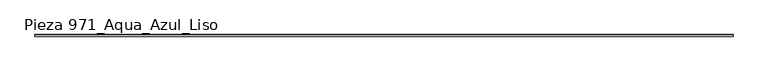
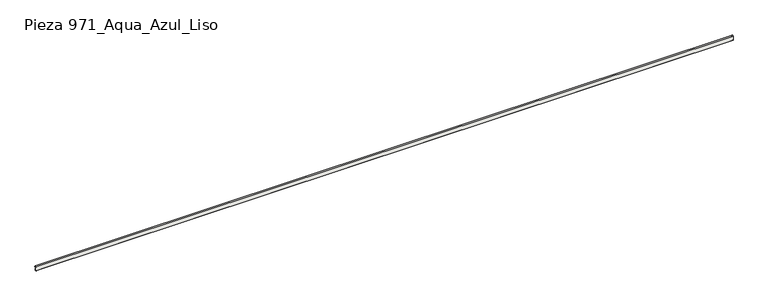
"""IFC4 building model written with IfcOpenShell, lengths in millimetres: slab geometry, ROSA GRES_971 : Pieza 971_Aqua_Azul_Liso."""

from ifc_helpers import new_model, si_unit, point, frame, frame_2d, origin, place, context, project, spatial, polyline, circle_curve, trimmed, segment, composite_curve, outline, extrude, source, transform, mapped, element, save


def pieza_971_aqua_azul_liso_7fdd6073(model_context):
    return source(origin(), model_context, "Body", "SweptSolid", [
        extrude(outline(composite_curve([segment(polyline([(31.1851409, 153.6242825), (39.9975962, 139.9882747), (39.9975962, 128.1510212), (28.5599154, 128.1510212), (22.7114874, 137.4414839)]), True, "CONTINUOUS"), segment(trimmed(circle_curve(frame_2d((18.761148, 135.3324983)), 4.4780578), [point((22.7114874, 137.4414839))], [point((14.3481673, 136.0931579))], True, "CARTESIAN"), True, "CONTINUOUS"), segment(polyline([(14.3481673, 136.0931579), (14.3481673, 113.5290116)]), True, "CONTINUOUS"), segment(trimmed(circle_curve(frame_2d((21.3613471, 107.0507801)), 9.5473648), [point((14.3481673, 113.5290116))], [point((14.9166636, 100.0067593))], True, "CARTESIAN"), True, "CONTINUOUS"), segment(polyline([(14.9166636, 100.0067593), (14.9166636, 88.7017059)]), True, "CONTINUOUS"), segment(trimmed(circle_curve(frame_2d((21.3511036, 81.7801218)), 9.450415), [point((14.9166636, 88.7017059))], [point((14.9614723, 74.8171516))], True, "CARTESIAN"), True, "CONTINUOUS"), segment(polyline([(14.9614723, 74.8171516), (14.9614723, 63.5120982)]), True, "CONTINUOUS"), segment(trimmed(circle_curve(frame_2d((21.3959123, 56.5905141)), 9.450415), [point((14.9614723, 63.5120982))], [point((15.0062809, 49.6275439))], True, "CARTESIAN"), True, "CONTINUOUS"), segment(polyline([(15.0062809, 49.6275439), (15.0062809, 41.3450913), (2.68, 41.3450913)]), True, "CONTINUOUS"), segment(trimmed(circle_curve(frame_2d((2.68, 44.0250913)), 2.68), [point((2.68, 41.3450913))], [point((0.0, 44.0250913))], False, "CARTESIAN"), True, "CONTINUOUS"), segment(polyline([(0.0, 44.0250913), (0.0, 146.1331033)]), True, "CONTINUOUS"), segment(trimmed(circle_curve(frame_2d((16.8529233, 144.6319512)), 16.9196478), [point((0.0, 146.1331033))], [point((31.1851409, 153.6242825))], False, "CARTESIAN"), True, "CONTINUOUS")], self_intersect=False)), frame((0.0, 0.0, 0.0), z_axis=(1.0, 0.0, 0.0), x_axis=(0.0, 1.0, 0.0)), (0.0, 0.0, 1.0), 17460.0307734),
    ])


if __name__ == "__main__":
    model = new_model("IFC4")
    model_context = context("Model", 3, world=origin())
    ifc_project = project(units=[si_unit("LENGTHUNIT", "METRE", prefix="MILLI")], contexts=[model_context])
    site = spatial("IfcSite", under=ifc_project)
    building = spatial("IfcBuilding", under=site)
    placement = place(None, origin())
    pieza_971_aqua_azul_liso_shape = pieza_971_aqua_azul_liso_7fdd6073(model_context)
    element("IfcSlab", 1, ObjectType="ROSA GRES_971 : Pieza 971_Aqua_Azul_Liso", at=placement, inside=building, context=model_context, shape_type="MappedRepresentation", body=[
        mapped(pieza_971_aqua_azul_liso_shape, transform((0.0, 0.0, 0.0), x_axis=(1.0, 0.0, 0.0), y_axis=(0.0, 1.0, 0.0), z_axis=(0.0, 0.0, 1.0))),
    ])
    save(model, "model.ifc")
